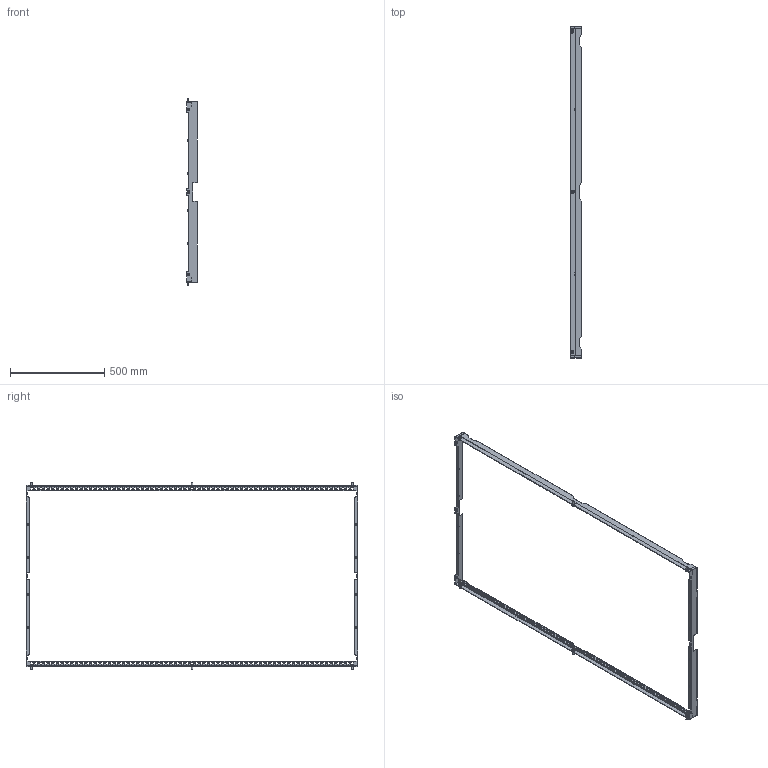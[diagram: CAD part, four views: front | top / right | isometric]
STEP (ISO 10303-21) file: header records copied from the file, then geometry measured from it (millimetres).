
FILE_DESCRIPTION (( 'STEP AP203' ), '1' );
FILE_NAME ('R6IP18100.step', '2025-07-11T08:09:24', ( '' ), ( '' ), 'SwSTEP 2.0', 'SolidWorks 2022', '' );
FILE_SCHEMA (( 'CONFIG_CONTROL_DESIGN' ));
Length unit declared in the file: millimetre
Products named in the file (9): RB.3320.00.01.0_-04; RB.3320.00.02.0_-04; Pressing nut М6 S-M6-1; R6IP18100; M6 DIN 6923 cl.8,0 Zinc_straight; RB.3321.00.00.0 СБ_-02; RB.3320.00.00.0 СБ_-04; RB.3321.00.01.0_-02; M8x20 DIN 6921 cl.8,8 Zinc_straight
Assembly tree (25 placements, depth 3):
  R6IP18100
    RB.3320.00.00.0 СБ_-04  x2
      RB.3320.00.01.0_-04
      RB.3320.00.02.0_-04
    RB.3321.00.00.0 СБ_-02  x2
      RB.3321.00.01.0_-02
      Pressing nut М6 S-M6-1
    M6 DIN 6923 cl.8,0 Zinc_straight  x7
    M8x20 DIN 6921 cl.8,8 Zinc_straight  x7
Bounding box: 57.66 x 1757.6 x 993.2 mm (x, y, z)
Volume: 616268.8 mm3; surface area: 980394.5 mm2
Topology: 28 solids, 28 shells, 5470 faces, 15855 edges, 10460 vertices
Faces by surface type: plane 3971, cylinder 1243, cone 151, bspline 84, torus 21
Full cylindrical faces by diameter (mm): 5 x15, 6 x7, 8 x13, 8.73 x8, 8.85 x8, 11.1 x8
Entity records: 72015 total; most frequent: CARTESIAN_POINT 13077, ORIENTED_EDGE 12256, DIRECTION 11518, EDGE_CURVE 6128, LINE 4760, VECTOR 4760, VERTEX_POINT 4072, AXIS2_PLACEMENT_3D 3379
